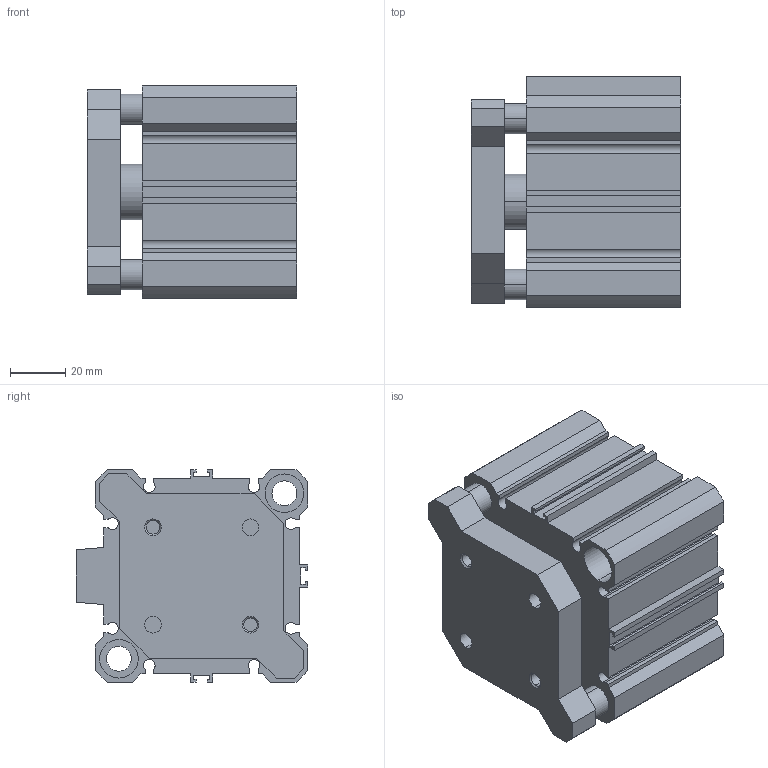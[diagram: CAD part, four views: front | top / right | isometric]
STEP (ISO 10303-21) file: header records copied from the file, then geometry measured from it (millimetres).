
FILE_DESCRIPTION (( 'STEP AP203' ), '1' );
FILE_NAME ('CCMG63-10.STEP', '2020-04-01T18:49:02', ( '' ), ( '' ), 'SwSTEP 2.0', 'SolidWorks 2019', '' );
FILE_SCHEMA (( 'CONFIG_CONTROL_DESIGN' ));
Length unit declared in the file: millimetre
Products named in the file (1): CCMG63-10
Bounding box: 76 x 84 x 77 mm (x, y, z)
Volume: 310473.2 mm3; surface area: 76386.2 mm2
Topology: 2 solids, 2 shells, 194 faces, 518 edges, 338 vertices
Faces by surface type: plane 114, cylinder 64, cone 16
Entity records: 6105 total; most frequent: CARTESIAN_POINT 1047, DIRECTION 1044, ORIENTED_EDGE 1028, EDGE_CURVE 514, VECTOR 374, LINE 374, VERTEX_POINT 338, AXIS2_PLACEMENT_3D 335
